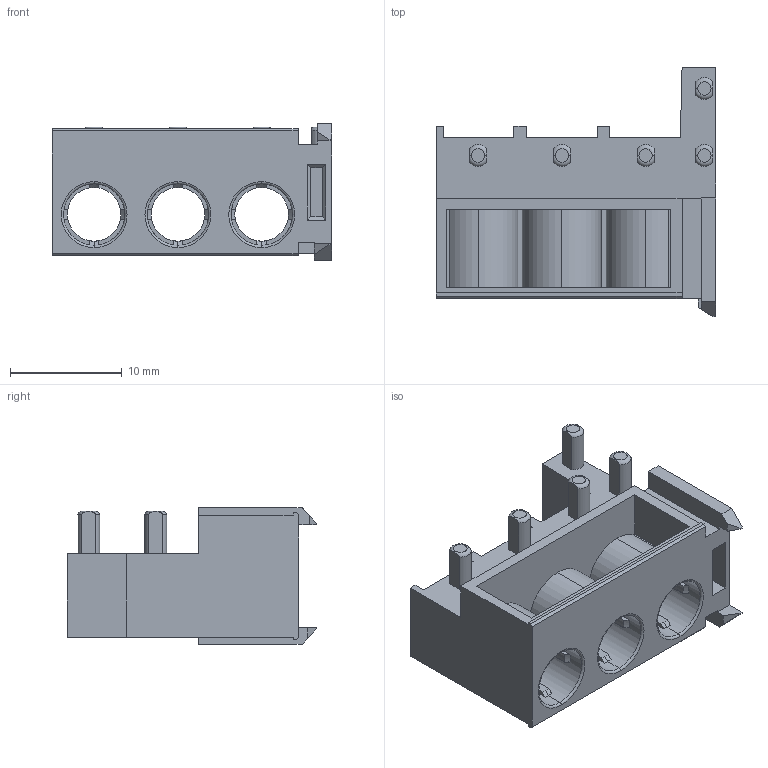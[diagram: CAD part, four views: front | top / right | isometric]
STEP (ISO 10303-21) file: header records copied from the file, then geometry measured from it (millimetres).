
FILE_DESCRIPTION (( 'STEP AP214' ), '1' );
FILE_NAME ('9111-72NB.STEP', '2021-02-05T10:10:48', ( '' ), ( '' ), 'SwSTEP 2.0', 'SolidWorks 2011', '' );
FILE_SCHEMA (( 'AUTOMOTIVE_DESIGN' ));
Length unit declared in the file: millimetre
Products named in the file (1): 9111-72NB
Bounding box: 24.98 x 22.3 x 12.25 mm (x, y, z)
Volume: 1928.4 mm3; surface area: 3107.4 mm2
Topology: 1 solids, 1 shells, 277 faces, 775 edges, 508 vertices
Faces by surface type: plane 176, cylinder 70, torus 16, cone 15
Entity records: 9087 total; most frequent: CARTESIAN_POINT 1839, ORIENTED_EDGE 1550, DIRECTION 1479, EDGE_CURVE 775, VERTEX_POINT 508, LINE 495, VECTOR 495, AXIS2_PLACEMENT_3D 492
